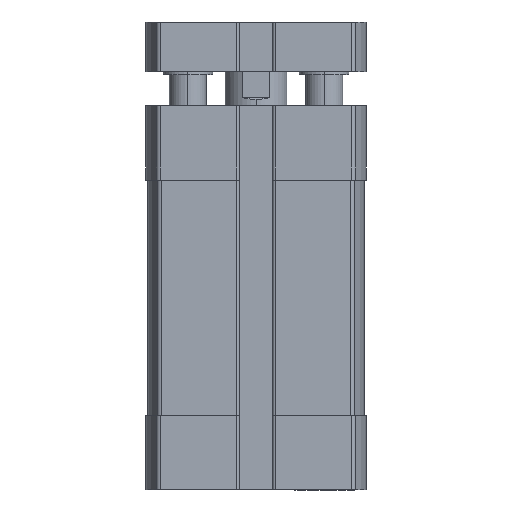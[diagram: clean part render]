
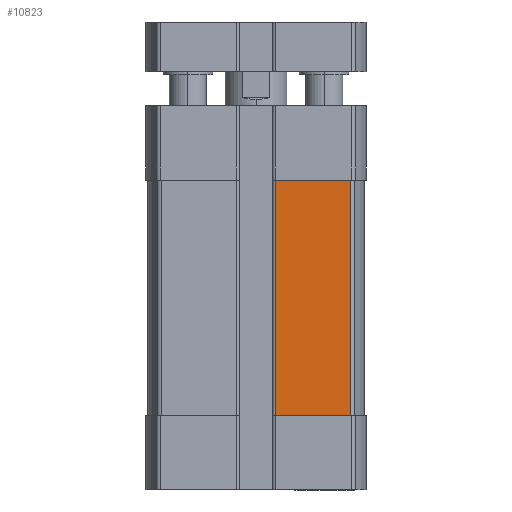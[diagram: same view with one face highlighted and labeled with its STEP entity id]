
A CAD part, front view. The second image highlights one B-rep face of the part: STEP entity #10823.
In plain terms, the highlighted planar face has unit normal (0, -1, 0) as drawn and (-1, 0, 0) by its records, which use the part's own axes.
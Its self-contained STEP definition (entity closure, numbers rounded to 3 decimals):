
#890 = CARTESIAN_POINT ( 'NONE',  ( -17.5, -3.1, -12. ) ) ;
#891 = FACE_OUTER_BOUND ( 'NONE', #5598, .T. ) ;
#1150 = VERTEX_POINT ( 'NONE', #4933 ) ;
#1299 = VECTOR ( 'NONE', #10897, 1000. ) ;
#3157 = DIRECTION ( 'NONE',  ( 0., -1., 0. ) ) ;
#3531 = CARTESIAN_POINT ( 'NONE',  ( -17.5, -15.253, -12. ) ) ;
#3957 = DIRECTION ( 'NONE',  ( 0., 1., 0. ) ) ;
#4289 = VECTOR ( 'NONE', #13587, 1000. ) ;
#4933 = CARTESIAN_POINT ( 'NONE',  ( -17.5, -3.1, -50. ) ) ;
#5321 = EDGE_CURVE ( 'NONE', #9753, #11267, #10085, .T. ) ;
#5598 = EDGE_LOOP ( 'NONE', ( #13042, #14296, #17955, #10152 ) ) ;
#5854 = EDGE_CURVE ( 'NONE', #1150, #13775, #7760, .T. ) ;
#6029 = LINE ( 'NONE', #12015, #18283 ) ;
#6896 = DIRECTION ( 'NONE',  ( -1., 0., 0. ) ) ;
#7727 = CARTESIAN_POINT ( 'NONE',  ( -17.5, -3.1, -50. ) ) ;
#7760 = LINE ( 'NONE', #7727, #4289 ) ;
#8333 = LINE ( 'NONE', #12809, #12730 ) ;
#9753 = VERTEX_POINT ( 'NONE', #15669 ) ;
#9797 = EDGE_CURVE ( 'NONE', #11267, #13775, #8333, .T. ) ;
#10085 = LINE ( 'NONE', #13822, #1299 ) ;
#10152 = ORIENTED_EDGE ( 'NONE', *, *, #5854, .F. ) ;
#10823 = ADVANCED_FACE ( 'NONE', ( #891 ), #11283, .T. ) ;
#10897 = DIRECTION ( 'NONE',  ( 0., 0., 1. ) ) ;
#11267 = VERTEX_POINT ( 'NONE', #3531 ) ;
#11283 = PLANE ( 'NONE',  #13947 ) ;
#12015 = CARTESIAN_POINT ( 'NONE',  ( -17.5, -3.1, -50. ) ) ;
#12730 = VECTOR ( 'NONE', #3957, 1000. ) ;
#12809 = CARTESIAN_POINT ( 'NONE',  ( -17.5, 0., -12. ) ) ;
#13042 = ORIENTED_EDGE ( 'NONE', *, *, #15508, .T. ) ;
#13587 = DIRECTION ( 'NONE',  ( 0., 0., 1. ) ) ;
#13775 = VERTEX_POINT ( 'NONE', #890 ) ;
#13822 = CARTESIAN_POINT ( 'NONE',  ( -17.5, -15.253, -50. ) ) ;
#13947 = AXIS2_PLACEMENT_3D ( 'NONE', #15768, #6896, #17242 ) ;
#14296 = ORIENTED_EDGE ( 'NONE', *, *, #5321, .T. ) ;
#15508 = EDGE_CURVE ( 'NONE', #1150, #9753, #6029, .T. ) ;
#15669 = CARTESIAN_POINT ( 'NONE',  ( -17.5, -15.253, -50. ) ) ;
#15768 = CARTESIAN_POINT ( 'NONE',  ( -17.5, -3.1, -50. ) ) ;
#17242 = DIRECTION ( 'NONE',  ( 0., 0., 1. ) ) ;
#17955 = ORIENTED_EDGE ( 'NONE', *, *, #9797, .T. ) ;
#18283 = VECTOR ( 'NONE', #3157, 1000. ) ;
